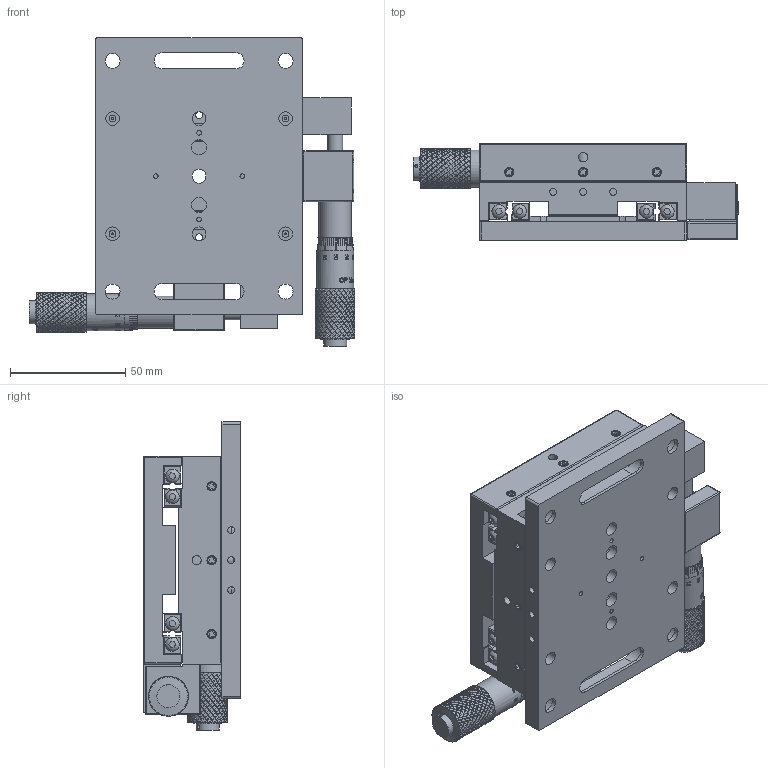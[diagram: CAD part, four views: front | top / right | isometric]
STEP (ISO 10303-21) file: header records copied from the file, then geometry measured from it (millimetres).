
FILE_DESCRIPTION (( 'STEP AP203' ), '1' );
FILE_NAME ('TSS90XY-1.step', '2017-01-10T09:24:13', ( '¦K¬P' ), ( '' ), 'SwSTEP 2.0', 'SolidWorks 2012', '' );
FILE_SCHEMA (( 'CONFIG_CONTROL_DESIGN' ));
Products named in the file (1): TSS90XY-1
Bounding box: 141.3 x 42 x 133.7 mm (x, y, z)
Surface area: 103465.8 mm2 (no closed solid volume)
Topology: 0 solids, 145 shells, 3513 faces, 13987 edges, 10096 vertices
Faces by surface type: bspline 1715, cylinder 1251, plane 465, cone 51, sphere 17, torus 14
Full cylindrical faces by diameter (mm): 1.4 x2, 2 x6, 3 x14, 4 x18, 6 x28, 6.5 x8, 8 x2, 10 x4, 11 x8, 14.8 x2, 16 x2
Entity records: 339030 total; most frequent: CARTESIAN_POINT 256057, ORIENTED_EDGE 22766, EDGE_CURVE 13784, VERTEX_POINT 10049, DIRECTION 8479, B_SPLINE_CURVE_WITH_KNOTS 5238, EDGE_LOOP 4071, FACE_OUTER_BOUND 3621
